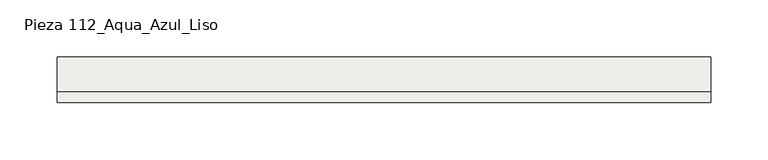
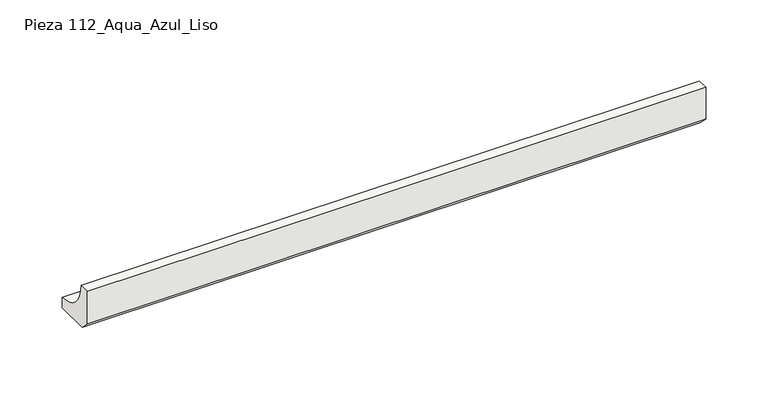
"""IFC4 building model written with IfcOpenShell, lengths in millimetres: slab geometry, ROSA GRES_112 : Pieza 112_Aqua_Azul_Liso."""

import ifcopenshell
import ifcopenshell.guid

model = None  # the IFC model being written
_history = None  # IfcOwnerHistory: only IFC2X3 demands one
_inside = {}  # id of a spatial element -> (the spatial element, [elements in it])
_under = {}  # id of a project, library or spatial element -> (it, [spatial elements below it])
_declared = {}  # id of a project -> (the project, [libraries it declares])
_typed = {}  # id of a type object -> (the type object, [elements of that type])
_made_of = {}  # id of a material, layer set ... -> (it, [elements and type objects made of it])


def new_model(schema):
    """Start an empty IFC model of exactly this schema.

    Asked for "IFC4X3", IfcOpenShell would pick the latest addendum, in which some entities
    have other attributes; the version numbers below select the first issue.
    IFC2X3 requires an IfcOwnerHistory on every rooted entity: one is made here for all.
    """
    global model, _history
    if schema == "IFC4X3":
        model = ifcopenshell.file(schema_version=(4, 3, 0, 0))
    else:
        model = ifcopenshell.file(schema=schema)
    _inside.clear()
    _under.clear()
    _declared.clear()
    _typed.clear()
    _made_of.clear()
    _history = None
    if model.schema == "IFC2X3":
        org = make("IfcOrganization", Name="unknown")
        user = make(
            "IfcPersonAndOrganization",
            ThePerson=make("IfcPerson", FamilyName="unknown"),
            TheOrganization=org,
        )
        app = make(
            "IfcApplication",
            ApplicationDeveloper=org,
            Version="unknown",
            ApplicationFullName="unknown",
            ApplicationIdentifier="unknown",
        )
        _history = make(
            "IfcOwnerHistory",
            OwningUser=user,
            OwningApplication=app,
            ChangeAction="ADDED",
            CreationDate=0,
        )
    return model


def make(cls, **values):
    """One entity of the class cls with the attributes given. An attribute that is None is left unset."""
    return model.create_entity(
        cls, **{name: value for name, value in values.items() if value is not None}
    )


def rooted(cls, **values):
    """An entity with a GlobalId (a new one), such as an element, a storey or a relation."""
    return make(cls, GlobalId=ifcopenshell.guid.new(), OwnerHistory=_history, **values)


def si_unit(unit_type, name, prefix=None):
    """IfcSIUnit, for example si_unit("LENGTHUNIT", "METRE", prefix="MILLI")."""
    return make("IfcSIUnit", UnitType=unit_type, Prefix=prefix, Name=name)


def assignment(units):
    """IfcUnitAssignment: the units of a project."""
    return None if units is None else make("IfcUnitAssignment", Units=units)


def point(xyz):
    """IfcCartesianPoint."""
    return None if xyz is None else make("IfcCartesianPoint", Coordinates=xyz)


def direction(xyz):
    """IfcDirection."""
    return None if xyz is None else make("IfcDirection", DirectionRatios=xyz)


def frame(location, z_axis=None, x_axis=None):
    """IfcAxis2Placement3D, a coordinate frame: its origin and axes. An axis left out is left unset."""
    return make(
        "IfcAxis2Placement3D",
        Location=point(location),
        Axis=direction(z_axis),
        RefDirection=direction(x_axis),
    )


def frame_2d(location, x_axis=None):
    """IfcAxis2Placement2D, a coordinate frame in the plane: its origin and x axis."""
    return make(
        "IfcAxis2Placement2D", Location=point(location), RefDirection=direction(x_axis)
    )


def origin():
    """The frame at (0, 0, 0) with its axes left unset."""
    return frame((0.0, 0.0, 0.0))


def place(relative_to, where):
    """IfcLocalPlacement: puts the frame where relative to a parent placement (None: the world)."""
    return make(
        "IfcLocalPlacement", PlacementRelTo=relative_to, RelativePlacement=where
    )


def context(
    kind, dimensions, precision=None, world=None, true_north=None, identifier=None
):
    """IfcGeometricRepresentationContext, for example the 3D "Model" context."""
    return make(
        "IfcGeometricRepresentationContext",
        ContextIdentifier=identifier,
        ContextType=kind,
        CoordinateSpaceDimension=dimensions,
        Precision=precision,
        WorldCoordinateSystem=world,
        TrueNorth=true_north,
    )


def project(units=None, contexts=None):
    """IfcProject with its units and contexts."""
    return rooted(
        "IfcProject",
        Name="project",
        RepresentationContexts=contexts,
        UnitsInContext=assignment(units),
    )


def spatial(cls, under=None, at=None, **own):
    """A site, building, storey or space (cls), placed at a placement, below another one or the project."""
    s = rooted(cls, ObjectPlacement=at, **own)
    if under is not None:
        _under.setdefault(under.id(), (under, []))[1].append(s)
    return s


def polyline(points):
    """IfcPolyline through the points."""
    return make("IfcPolyline", Points=[point(p) for p in points])


def circle_curve(where, radius):
    """IfcCircle in the frame where."""
    return make("IfcCircle", Position=where, Radius=radius)


def trimmed(basis, trim1, trim2, sense, master):
    """IfcTrimmedCurve: the piece of a basis curve between two trims."""
    return make(
        "IfcTrimmedCurve",
        BasisCurve=basis,
        Trim1=trim1,
        Trim2=trim2,
        SenseAgreement=sense,
        MasterRepresentation=master,
    )


def segment(curve, same_sense, transition):
    """IfcCompositeCurveSegment."""
    return make(
        "IfcCompositeCurveSegment",
        Transition=transition,
        SameSense=same_sense,
        ParentCurve=curve,
    )


def composite_curve(segments, self_intersect=None):
    """IfcCompositeCurve: segments joined end to end."""
    return make("IfcCompositeCurve", Segments=segments, SelfIntersect=self_intersect)


def outline(outer, holes=None, kind="AREA"):
    """IfcArbitraryClosedProfileDef: a profile drawn as a closed curve; with holes, ...WithVoids."""
    if holes is None:
        return make("IfcArbitraryClosedProfileDef", ProfileType=kind, OuterCurve=outer)
    return make(
        "IfcArbitraryProfileDefWithVoids",
        ProfileType=kind,
        OuterCurve=outer,
        InnerCurves=holes,
    )


def extrude(swept, where, along, depth):
    """IfcExtrudedAreaSolid: the profile swept, set in the frame where, extruded along a direction by depth."""
    return make(
        "IfcExtrudedAreaSolid",
        SweptArea=swept,
        Position=where,
        ExtrudedDirection=direction(along),
        Depth=depth,
    )


def shape(context_of_items, identifier, shape_type, items):
    """IfcShapeRepresentation: the items that make up one representation, for example the "Body"."""
    return make(
        "IfcShapeRepresentation",
        ContextOfItems=context_of_items,
        RepresentationIdentifier=identifier,
        RepresentationType=shape_type,
        Items=items,
    )


def source(mapping_origin, context_of_items, identifier, shape_type, items):
    """IfcRepresentationMap: a shape defined once, which mapped items show again and again."""
    return make(
        "IfcRepresentationMap",
        MappingOrigin=mapping_origin,
        MappedRepresentation=shape(context_of_items, identifier, shape_type, items),
    )


def transform(
    local_origin,
    x_axis=None,
    y_axis=None,
    z_axis=None,
    scale=None,
    scale2=None,
    scale3=None,
    uniform=True,
):
    """IfcCartesianTransformationOperator3D, or its non-uniform kind. x_axis, y_axis, z_axis: its Axis1, 2, 3."""
    if uniform:
        return make(
            "IfcCartesianTransformationOperator3D",
            Axis1=direction(x_axis),
            Axis2=direction(y_axis),
            LocalOrigin=point(local_origin),
            Scale=scale,
            Axis3=direction(z_axis),
        )
    return make(
        "IfcCartesianTransformationOperator3DnonUniform",
        Axis1=direction(x_axis),
        Axis2=direction(y_axis),
        LocalOrigin=point(local_origin),
        Scale=scale,
        Axis3=direction(z_axis),
        Scale2=scale2,
        Scale3=scale3,
    )


def mapped(mapping_source, mapping_target):
    """IfcMappedItem: shows the shape of a source again, moved by a transform."""
    return make(
        "IfcMappedItem", MappingSource=mapping_source, MappingTarget=mapping_target
    )


def made_of(thing, what):
    """Note that an element or type object is made of a material, layer set ...; save() writes the relation."""
    if what is not None:
        _made_of.setdefault(what.id(), (what, []))[1].append(thing)
    return thing


def element(
    cls,
    number,
    at=None,
    inside=None,
    cuts=None,
    type_object=None,
    material=None,
    context=None,
    identifier="Body",
    shape_type=None,
    held_by="IfcProductDefinitionShape",
    body=None,
    shapes=None,
    **own,
):
    """One element of the class cls, such as IfcWall. Its Tag is "e" and its number.

    at: its placement. inside: the storey or other place that contains it. cuts: it is an
    opening in that element (IfcRelVoidsElement). A single representation is given by context,
    identifier, shape_type and body (its items); several are given by shapes. held_by: the class
    of the entity that holds the representations. save() writes the other relations.
    """
    e = rooted(cls, Tag="e%d" % number, ObjectPlacement=at, **own)
    if body is not None:
        shapes = [shape(context, identifier, shape_type, body)]
    if shapes is not None:
        e.Representation = make(held_by, Representations=shapes)
    if inside is not None:
        _inside.setdefault(inside.id(), (inside, []))[1].append(e)
    if cuts is not None:
        rooted(
            "IfcRelVoidsElement", RelatingBuildingElement=cuts, RelatedOpeningElement=e
        )
    if type_object is not None:
        _typed.setdefault(type_object.id(), (type_object, []))[1].append(e)
    return made_of(e, material)


def aggregate(whole, parts):
    """IfcRelAggregates: a whole, such as a stair, and the parts it consists of."""
    return rooted("IfcRelAggregates", RelatingObject=whole, RelatedObjects=parts)


def save(model, path):
    """Write the relations noted so far, then the file.

    IfcRelAggregates (storeys below a building ...), IfcRelContainedInSpatialStructure (elements
    in a storey), IfcRelDefinesByType, IfcRelAssociatesMaterial and IfcRelDeclares: one each for
    every whole, place, type object, material and project.
    """
    for whole, parts in _under.values():
        aggregate(whole, parts)
    for where, things in _inside.values():
        rooted(
            "IfcRelContainedInSpatialStructure",
            RelatedElements=things,
            RelatingStructure=where,
        )
    for kind, things in _typed.values():
        rooted("IfcRelDefinesByType", RelatedObjects=things, RelatingType=kind)
    for what, things in _made_of.values():
        rooted("IfcRelAssociatesMaterial", RelatedObjects=things, RelatingMaterial=what)
    for by, libraries in _declared.values():
        rooted("IfcRelDeclares", RelatingContext=by, RelatedDefinitions=libraries)
    model.write(path)


def pieza_112_aqua_azul_liso_7a62d313(model_context):
    return source(origin(), model_context, "Body", "SweptSolid", [
        extrude(outline(composite_curve([segment(polyline([(0.0, 8.7114978), (0.0, 40.0), (9.9734114, 40.0)]), True, "CONTINUOUS"), segment(trimmed(circle_curve(frame_2d((39.9955547, 39.9955547)), 30.0221435), [point((9.9734114, 40.0))], [point((40.0, 9.9734114))], True, "CARTESIAN"), True, "CONTINUOUS"), segment(polyline([(40.0, 9.9734114), (40.0, 0.0), (8.7114978, 0.0), (0.0, 8.7114978)]), True, "CONTINUOUS")], self_intersect=False)), frame((0.0, 0.0, 0.0), z_axis=(1.0, 0.0, 0.0), x_axis=(0.0, 1.0, 0.0)), (0.0, 0.0, 1.0), 571.1082632),
    ])


if __name__ == "__main__":
    model = new_model("IFC4")
    model_context = context("Model", 3, world=origin())
    ifc_project = project(units=[si_unit("LENGTHUNIT", "METRE", prefix="MILLI")], contexts=[model_context])
    site = spatial("IfcSite", under=ifc_project)
    building = spatial("IfcBuilding", under=site)
    placement = place(None, origin())
    pieza_112_aqua_azul_liso_shape = pieza_112_aqua_azul_liso_7a62d313(model_context)
    element("IfcSlab", 1, ObjectType="ROSA GRES_112 : Pieza 112_Aqua_Azul_Liso", at=placement, inside=building, context=model_context, shape_type="MappedRepresentation", body=[
        mapped(pieza_112_aqua_azul_liso_shape, transform((0.0, 0.0, 0.0), x_axis=(1.0, 0.0, 0.0), y_axis=(0.0, 1.0, 0.0), z_axis=(0.0, 0.0, 1.0))),
    ])
    save(model, "model.ifc")
